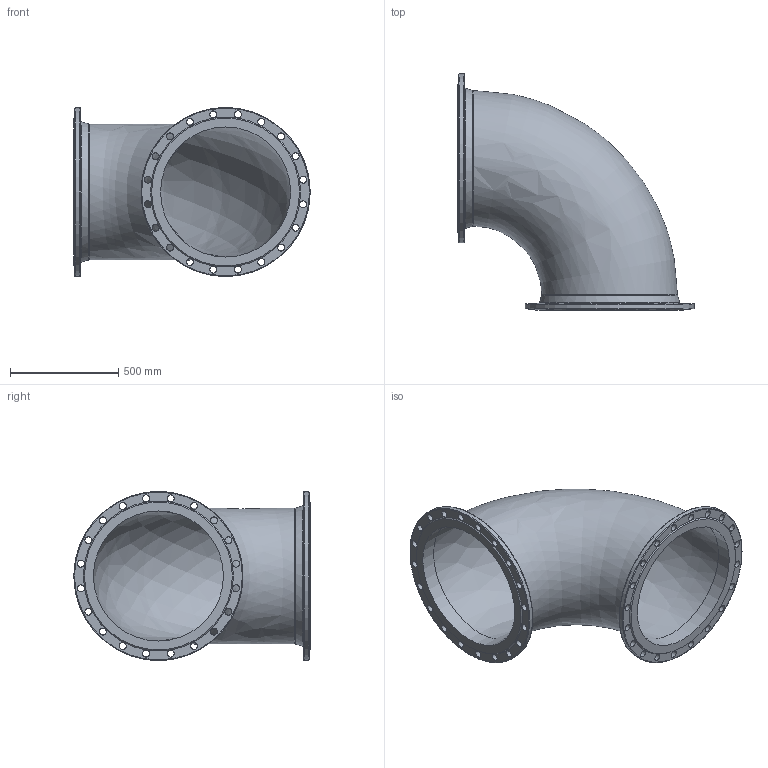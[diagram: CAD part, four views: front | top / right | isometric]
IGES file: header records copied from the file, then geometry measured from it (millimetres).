
Start section: SolidWorks IGES file using analytic representation for surfaces
Global section: file name: \\avksan2\techshare\PBM outline export from Enovia\O_712_0610_DN600_0X_REV01.igs; native system: SolidWorks 2019; preprocessor: SolidWorks 2019; author: pbm; date: 211119.112309; units: millimetre
Bounding box: 1090 x 1090 x 780 mm (x, y, z)
Surface area: 5079541.3 mm2 (no closed solid volume)
Topology: 0 solids, 0 shells, 105 faces, 537 edges, 477 vertices
Faces by surface type: revolution 62, bspline 43
